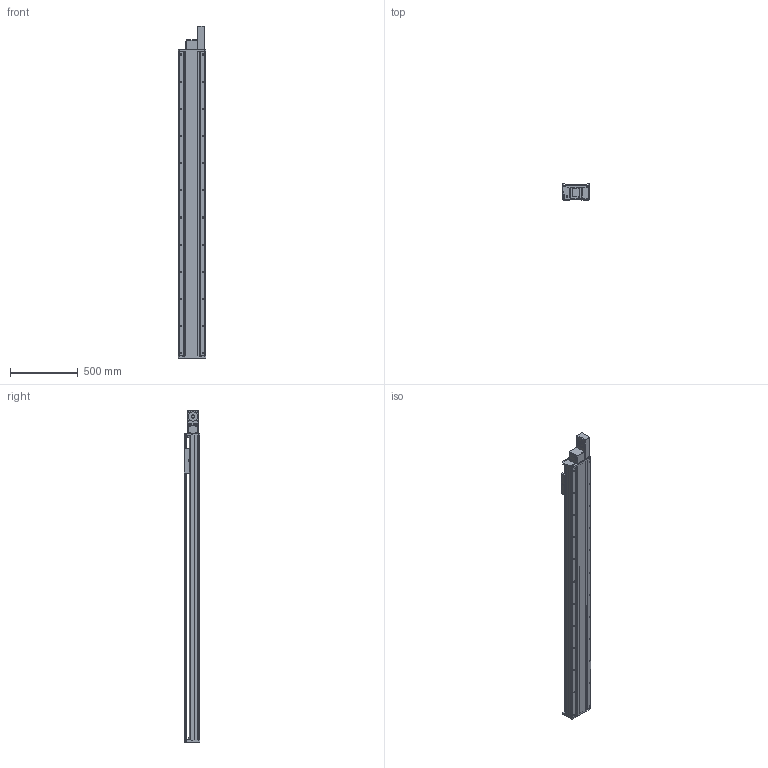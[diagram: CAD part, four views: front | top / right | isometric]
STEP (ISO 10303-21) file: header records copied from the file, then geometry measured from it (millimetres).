
FILE_DESCRIPTION(/* description */ (''),/* implementation_level */ '2;1');
FILE_NAME(/* name */ 'TKB200-FL-2000_asm1.stp',/* time_stamp */ '2016-05-18T10:28:30+08:00',/* author */ (''),/* organization */ (''),/* preprocessor_version */ 'ST-DEVELOPER v15',/* originating_system */ 'SIEMENS PLM Software NX 8.5',/* authorisation */ '');
FILE_SCHEMA (('AUTOMOTIVE_DESIGN { 1 0 10303 214 3 1 1 1 }'));
Length unit declared in the file: millimetre
Products named in the file (3): 200-2; 200-1; TKB200-FL-2000_asm1
Assembly tree (2 placements, depth 2):
  TKB200-FL-2000_asm1
    200-1
    200-2
Bounding box: 200 x 115 x 2445 mm (x, y, z)
Volume: 13862394.2 mm3; surface area: 4449902 mm2
Topology: 2 solids, 3 shells, 1092 faces, 3167 edges, 2042 vertices
Faces by surface type: cylinder 525, plane 481, cone 70, bspline 16
Full cylindrical faces by diameter (mm): 2.5 x2, 3.3 x16, 4.3 x4, 4.5 x8, 5 x2, 6.6 x34, 6.8 x8, 8 x6, 9 x32, 10 x4, 11 x22, 12 x16, 14 x24, 75 x1
Entity records: 38735 total; most frequent: CARTESIAN_POINT 11031, ORIENTED_EDGE 5616, DIRECTION 5610, EDGE_CURVE 2808, AXIS2_PLACEMENT_3D 2045, VERTEX_POINT 1934, EDGE_LOOP 1528, LINE 1520
